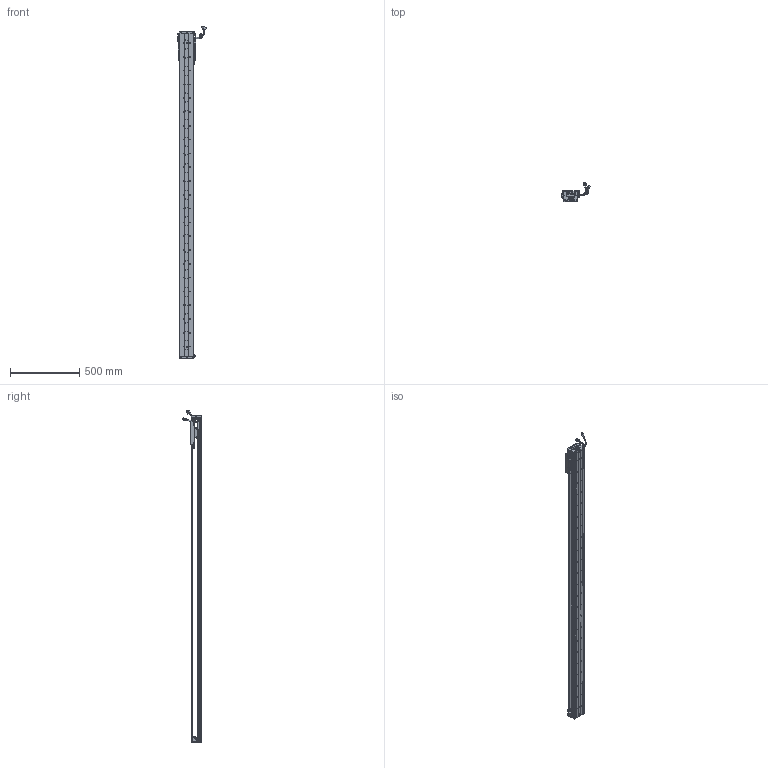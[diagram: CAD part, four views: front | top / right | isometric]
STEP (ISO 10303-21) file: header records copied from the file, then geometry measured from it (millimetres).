
FILE_DESCRIPTION (( 'STEP AP203' ), '1' );
FILE_NAME ('Z2-RY100D-1-L500-B-K.SLDASM_2100.step', '2021-05-17T02:37:20', ( '盈信电脑' ), ( '东莞市道滘镇水果街19号' ), 'SwSTEP 2.0', 'SolidWorks 2016', '' );
FILE_SCHEMA (( 'CONFIG_CONTROL_DESIGN' ));
Length unit declared in the file: millimetre
Products named in the file (36): HARNESS; COVER; SCREW-M1.7; LABEL; Z-100詩湍傷裔啣; SCALE-Part-2; HOLDER0; Z-RY100D詩湍奻揤裔; SEAL; 140蚥薯蝶輸; SHIELDPLATE; Z2-RY100D-1-L500-B-K.SLDASM_2100; SCREW-M1.7-1; 榋妏寠巭燃_暯_M2_2; 140雄赽晤鎢ん堤盄; SCREW-M1.6-2; 100-Z-臏賑輸盄裔(21遴); Z-RY100D覜茼んえ; COVER-Part-1; SCREW-M1.6-1; Z2-RY100铝滑块（21款）; Z-RY100D詩湍狟揤裔; PSLH080_PSLF2; 覜茼ん672; SCALE; Z2-RY100-L500詩湍90mm遵_2100; HARNESS-Part-1; SCALE-Part-1; PBU_SHEET; HARNESS-Part-2; 080黍杅芛假蚾釱21遴; SCREW-M1.6-3; SEAL-Part-1; SCREW-M1.6; LABEL-Part-1; Z2-RY100D-500-倰第菁釱_2100
Assembly tree (43 placements, depth 4):
  Z2-RY100D-1-L500-B-K.SLDASM_2100
    Z2-RY100D-500-倰第菁釱_2100
    Z2-RY100铝滑块（21款）
    PSLH080_PSLF2
      SCALE
        SCALE-Part-1
        SCALE-Part-2
      HARNESS
        HARNESS-Part-1
        HARNESS-Part-2
      LABEL
        LABEL-Part-1
      COVER
        COVER-Part-1
      SEAL
        SEAL-Part-1
      榋妏寠巭燃_暯_M2_2
      SHIELDPLATE
      SCREW-M1.7
      SCREW-M1.7-1
      PBU_SHEET
      SCREW-M1.6
      SCREW-M1.6-1
      SCREW-M1.6-2
      SCREW-M1.6-3
      HOLDER0
    080黍杅芛假蚾釱21遴
    Z-100詩湍傷裔啣  x2
    140蚥薯蝶輸  x2
    覜茼ん672  x3
    Z-RY100D覜茼んえ  x3
    100-Z-臏賑輸盄裔(21遴)
    140雄赽晤鎢ん堤盄
    Z2-RY100-L500詩湍90mm遵_2100
    Z-RY100D詩湍狟揤裔  x2
    Z-RY100D詩湍奻揤裔  x2
Bounding box: 205.84 x 136.11 x 2405.43 mm (x, y, z)
Volume: 4370529.7 mm3; surface area: 1730834 mm2
Topology: 38 solids, 38 shells, 2904 faces, 7881 edges, 5028 vertices
Faces by surface type: cylinder 1394, plane 1170, cone 218, torus 69, bspline 53
Entity records: 83229 total; most frequent: CARTESIAN_POINT 17480, DIRECTION 13361, ORIENTED_EDGE 12658, EDGE_CURVE 6329, AXIS2_PLACEMENT_3D 5001, VERTEX_POINT 4096, VECTOR 3359, LINE 3359
